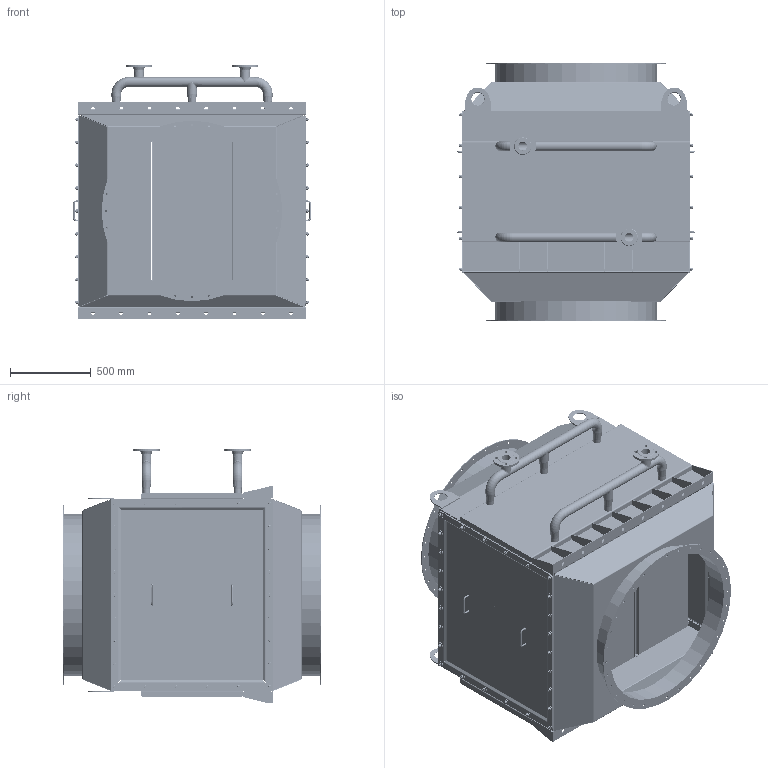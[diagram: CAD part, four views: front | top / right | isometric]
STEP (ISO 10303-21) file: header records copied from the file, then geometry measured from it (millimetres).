
FILE_DESCRIPTION (( 'STEP AP203' ), '1' );
FILE_NAME ('FW-1000-X3.STEP', '2024-12-19T11:41:59', ( '' ), ( '' ), 'SwSTEP 2.0', 'SolidWorks 2016', '' );
FILE_SCHEMA (( 'CONFIG_CONTROL_DESIGN' ));
Length unit declared in the file: millimetre
Products named in the file (32): F.354.E02-E03 - Gehäuse Teil 2-3_F.354.E03B - Geh„use Teil 3B; N.014.04 - Scheibe; F.354.E02-E03 - Gehäuse Teil 2-3_F.354.E02B - Geh„use Teil 2B; F.354.E14-15 - Statik-Winkel_F.354.E14B - Statik-Winkel 1B; F.354.E08 - T-St點k_F.354.E08A - T-St乧k 2 Zoll; N.001.DIN2633 - Vorschweißflansch DIN2633 PN16_DIN2633.DN50 - Vorschweiáflansch DIN2633 DN50 (2 Zoll); F.354.E10 - Rohrbogen_F.354.E10B - Rohrbogen 2 Zoll; F.354.D01 - Dichtung Abdeckung_F.354.D01 - Dichtung Abdeckung; F.354.E11 - Reduzierst點k_F.354.E11B - Reduzierst乧k B; Plakette KLEIN - mit Schrauben_N.012.01 - FERCHER Plakette Klein; N.012.01 - FERCHER Plakette Klein_N.012.01 - FERCHER Schild Klein; FW-1000-X3; F.354.E07 - Abdeckung_F.354.E07 - Abdeckung; F.331.01 - FERCHER Abgas Norm-Flansch_F.331.01.DN1000 - FERCHER Abgas Norm-Flansch DN1000; F.354.E05 - Anschlussrohr Abgas_F.354.E05B - Anschlussrohr Abgas DN1000; N.014.04 - Edelstahl Handgriff_N.014.04A - Edelstahl Handgriff; F.354.Z03 - Verteiler-Rohr_F.354.Z03B - Verteilerrohr B; F.350 - Block 01_F.350 - Block 01 - FW-1000; F.354.Z02 - Gehäuse Teil 1 Gesamt_F.351.Z02A - Geh„use Teil 1A Gesamt; F.354.E12 - Ösenwinkel_F.354.E12 - ™senwinkel; DIN9021 - Unterlegscheibe Groß_DIN9021.M12 - Scheibe Groá; F.354.E09 - Gerades Rohr_F.354.E09C - Gerades Rohr C; DIN934 - Sechskantmutter_DIN934.M12; DIN933 - Sechskantschraube mit Gewinde bis unter Kopf_DIN933.M5L16; F.354.Z05 - Abdeckung Gesamt_F.354.Z05 - Abdeckung Gesamt; DIN933 - Sechskantschraube mit Gewinde bis unter Kopf_DIN933.M12L30; N.014.04 - Edelstahl Handgriff verschraubt_N.014.04 - Edelstahl Handgriff verschraubt; F.354.E11 - Reduzierst點k_F.354.E11A - Reduzierst乧k A; F.354.E09 - Gerades Rohr_F.354.E09B - Gerades Rohr B; F.354.E06 - Leitblech_F.354.E06 - Leitblech; F.354.E04 - Versteifungs-Rippe_F.354.E04A - Versteifungs-Rippe A; F.354.E01 - Gehäuse Teil 1_F.354.E01 - Geh„use Teil 1
Assembly tree (144 placements, depth 4):
  FW-1000-X3
    F.354.Z02 - Gehäuse Teil 1 Gesamt_F.351.Z02A - Geh„use Teil 1A Gesamt  x2
      F.354.E01 - Gehäuse Teil 1_F.354.E01 - Geh„use Teil 1
      DIN933 - Sechskantschraube mit Gewinde bis unter Kopf_DIN933.M12L30
    F.354.E02-E03 - Gehäuse Teil 2-3_F.354.E02B - Geh„use Teil 2B
    F.354.E05 - Anschlussrohr Abgas_F.354.E05B - Anschlussrohr Abgas DN1000  x2
    F.331.01 - FERCHER Abgas Norm-Flansch_F.331.01.DN1000 - FERCHER Abgas Norm-Flansch DN1000  x2
    F.354.D01 - Dichtung Abdeckung_F.354.D01 - Dichtung Abdeckung  x2
    F.354.Z05 - Abdeckung Gesamt_F.354.Z05 - Abdeckung Gesamt  x2
      F.354.E07 - Abdeckung_F.354.E07 - Abdeckung
      Plakette KLEIN - mit Schrauben_N.012.01 - FERCHER Plakette Klein
        N.012.01 - FERCHER Plakette Klein_N.012.01 - FERCHER Schild Klein
      N.014.04 - Edelstahl Handgriff verschraubt_N.014.04 - Edelstahl Handgriff verschraubt
        N.014.04 - Edelstahl Handgriff_N.014.04A - Edelstahl Handgriff
        N.014.04 - Scheibe  x2
        DIN933 - Sechskantschraube mit Gewinde bis unter Kopf_DIN933.M5L16  x2
      DIN934 - Sechskantmutter_DIN934.M12
      DIN9021 - Unterlegscheibe Groß_DIN9021.M12 - Scheibe Groá
    F.354.E02-E03 - Gehäuse Teil 2-3_F.354.E03B - Geh„use Teil 3B
    F.354.E14-15 - Statik-Winkel_F.354.E14B - Statik-Winkel 1B  x2
    F.354.E04 - Versteifungs-Rippe_F.354.E04A - Versteifungs-Rippe A  x18
    F.354.Z03 - Verteiler-Rohr_F.354.Z03B - Verteilerrohr B  x2
      F.354.E08 - T-St點k_F.354.E08A - T-St乧k 2 Zoll
      F.354.E09 - Gerades Rohr_F.354.E09B - Gerades Rohr B
      F.354.E09 - Gerades Rohr_F.354.E09C - Gerades Rohr C
      F.354.E11 - Reduzierst點k_F.354.E11A - Reduzierst乧k A
      F.354.E10 - Rohrbogen_F.354.E10B - Rohrbogen 2 Zoll
      F.354.E11 - Reduzierst點k_F.354.E11B - Reduzierst乧k B
      N.001.DIN2633 - Vorschweißflansch DIN2633 PN16_DIN2633.DN50 - Vorschweiáflansch DIN2633 DN50 (2 Zoll)
    F.354.E06 - Leitblech_F.354.E06 - Leitblech  x4
    F.350 - Block 01_F.350 - Block 01 - FW-1000  x3
    F.354.E12 - Ösenwinkel_F.354.E12 - ™senwinkel  x4
Bounding box: 1476.43 x 1600 x 1582 mm (x, y, z)
Volume: 1002636446.5 mm3; surface area: 29111640.7 mm2
Topology: 241 solids, 241 shells, 4858 faces, 11908 edges, 7580 vertices
Faces by surface type: cylinder 2474, plane 2114, cone 184, bspline 54, torus 32
Entity records: 33107 total; most frequent: CARTESIAN_POINT 5660, DIRECTION 4681, ORIENTED_EDGE 4106, EDGE_CURVE 2053, AXIS2_PLACEMENT_3D 1819, VERTEX_POINT 1294, EDGE_LOOP 1119, LINE 1043
